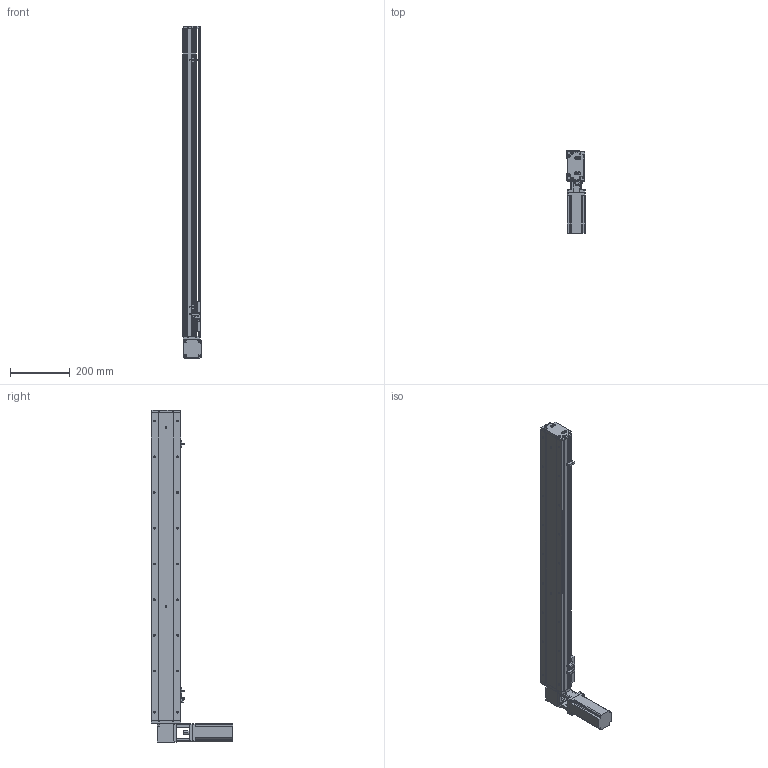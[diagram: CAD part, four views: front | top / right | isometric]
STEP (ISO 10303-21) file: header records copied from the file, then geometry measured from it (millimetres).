
FILE_DESCRIPTION (( 'STEP AP214' ), '1' );
FILE_NAME ('KSD100B-S850-MLT-CM.STEP', '2019-11-11T05:11:41', ( '微软用户' ), ( '微软中国' ), 'SwSTEP 2.0', 'SolidWorks 2014', '' );
FILE_SCHEMA (( 'AUTOMOTIVE_DESIGN' ));
Length unit declared in the file: millimetre
Products named in the file (12): KSD100B-S850-MLT-CM; 100宽安装板同步带带电机座400W,86; 100遵鎮湛假蚾啣1 ; 100宽防尘板850行程-同步带; U倰嫖萇EEㄜSX672; 覜茼え100遵圉猾敕; 台达ECMA－C20604AS伺服电机; 100宽马达安装板同步带右; 100宽同步带安装板半封闭; 100宽马达安装板同步带; 100遵傷啣肮祭湍; 100宽底板半封闭同步带850行程
Assembly tree (13 placements, depth 2):
  KSD100B-S850-MLT-CM
    100宽底板半封闭同步带850行程
    100遵傷啣肮祭湍
    100宽马达安装板同步带
    100宽同步带安装板半封闭
    100宽马达安装板同步带右
    台达ECMA－C20604AS伺服电机
    覜茼え100遵圉猾敕
    U倰嫖萇EEㄜSX672  x3
    100宽防尘板850行程-同步带
    100遵鎮湛假蚾啣1 
    100宽安装板同步带带电机座400W,86
Bounding box: 61 x 275 x 1115 mm (x, y, z)
Volume: 2587886.8 mm3; surface area: 831937.3 mm2
Topology: 14 solids, 14 shells, 1414 faces, 3967 edges, 2527 vertices
Faces by surface type: cylinder 716, plane 571, cone 127
Entity records: 49211 total; most frequent: CARTESIAN_POINT 9738, DIRECTION 6883, ORIENTED_EDGE 6586, EDGE_CURVE 3293, AXIS2_PLACEMENT_3D 2530, VERTEX_POINT 2151, VECTOR 1823, LINE 1823
